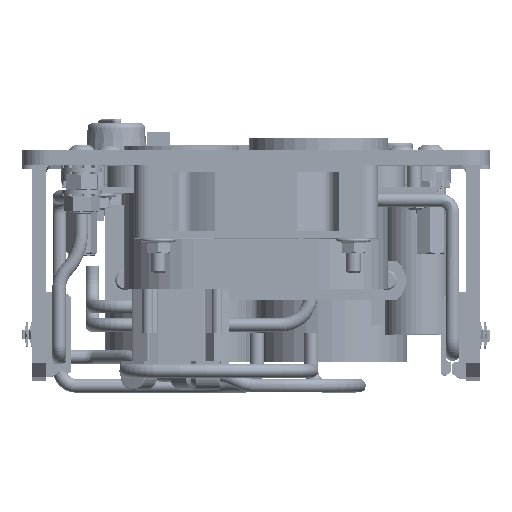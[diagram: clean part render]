
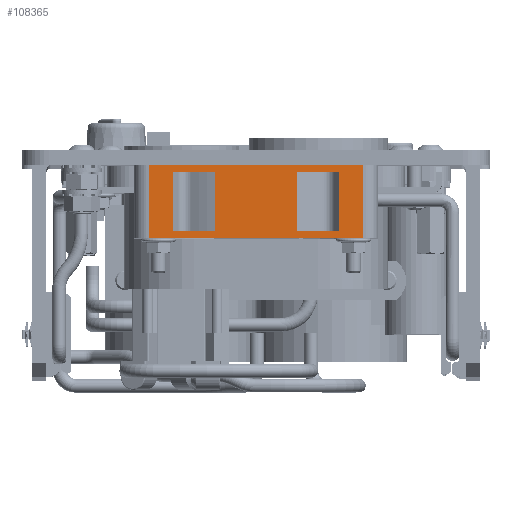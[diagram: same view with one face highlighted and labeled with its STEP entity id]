
A CAD part, top view. The second image highlights one B-rep face of the part: STEP entity #108365.
In plain terms, the highlighted planar face has unit normal (0, 0, 1) as drawn and (-1, 0, 0) by its records, which use the part's own axes.
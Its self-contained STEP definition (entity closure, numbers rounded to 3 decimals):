
#9862=LINE('',#184942,#15869);
#9863=LINE('',#184945,#15870);
#9864=LINE('',#184947,#15871);
#9865=LINE('',#184949,#15872);
#9866=LINE('',#184950,#15873);
#9867=LINE('',#184953,#15874);
#9868=LINE('',#184955,#15875);
#9869=LINE('',#184957,#15876);
#9870=LINE('',#184958,#15877);
#9871=LINE('',#184961,#15878);
#9872=LINE('',#184963,#15879);
#9873=LINE('',#184965,#15880);
#15869=VECTOR('',#136984,1000.);
#15870=VECTOR('',#136985,1000.);
#15871=VECTOR('',#136986,1000.);
#15872=VECTOR('',#136987,1000.);
#15873=VECTOR('',#136988,1000.);
#15874=VECTOR('',#136989,1000.);
#15875=VECTOR('',#136990,1000.);
#15876=VECTOR('',#136991,1000.);
#15877=VECTOR('',#136992,1000.);
#15878=VECTOR('',#136993,1000.);
#15879=VECTOR('',#136994,1000.);
#15880=VECTOR('',#136995,1000.);
#35551=ORIENTED_EDGE('',*,*,#51559,.F.);
#35552=ORIENTED_EDGE('',*,*,#51560,.T.);
#35553=ORIENTED_EDGE('',*,*,#51561,.T.);
#35554=ORIENTED_EDGE('',*,*,#51562,.T.);
#35555=ORIENTED_EDGE('',*,*,#51563,.F.);
#35556=ORIENTED_EDGE('',*,*,#51564,.T.);
#35557=ORIENTED_EDGE('',*,*,#51565,.T.);
#35558=ORIENTED_EDGE('',*,*,#51566,.T.);
#35559=ORIENTED_EDGE('',*,*,#51567,.F.);
#35560=ORIENTED_EDGE('',*,*,#51568,.T.);
#35561=ORIENTED_EDGE('',*,*,#51569,.T.);
#35562=ORIENTED_EDGE('',*,*,#51570,.T.);
#51559=EDGE_CURVE('',#60733,#60734,#9862,.T.);
#51560=EDGE_CURVE('',#60733,#60735,#9863,.T.);
#51561=EDGE_CURVE('',#60735,#60736,#9864,.T.);
#51562=EDGE_CURVE('',#60736,#60734,#9865,.T.);
#51563=EDGE_CURVE('',#60737,#60738,#9866,.T.);
#51564=EDGE_CURVE('',#60737,#60739,#9867,.T.);
#51565=EDGE_CURVE('',#60739,#60740,#9868,.T.);
#51566=EDGE_CURVE('',#60740,#60738,#9869,.F.);
#51567=EDGE_CURVE('',#60741,#60742,#9870,.T.);
#51568=EDGE_CURVE('',#60741,#60743,#9871,.T.);
#51569=EDGE_CURVE('',#60743,#60744,#9872,.T.);
#51570=EDGE_CURVE('',#60744,#60742,#9873,.F.);
#60733=VERTEX_POINT('',#184943);
#60734=VERTEX_POINT('',#184944);
#60735=VERTEX_POINT('',#184946);
#60736=VERTEX_POINT('',#184948);
#60737=VERTEX_POINT('',#184951);
#60738=VERTEX_POINT('',#184952);
#60739=VERTEX_POINT('',#184954);
#60740=VERTEX_POINT('',#184956);
#60741=VERTEX_POINT('',#184959);
#60742=VERTEX_POINT('',#184960);
#60743=VERTEX_POINT('',#184962);
#60744=VERTEX_POINT('',#184964);
#72228=EDGE_LOOP('',(#35551,#35552,#35553,#35554));
#72229=EDGE_LOOP('',(#35555,#35556,#35557,#35558));
#72230=EDGE_LOOP('',(#35559,#35560,#35561,#35562));
#78522=FACE_BOUND('',#72228,.T.);
#78523=FACE_BOUND('',#72229,.T.);
#78524=FACE_BOUND('',#72230,.T.);
#82221=PLANE('',#116752);
#108365=ADVANCED_FACE('',(#78522,#78523,#78524),#82221,.F.);
#116752=AXIS2_PLACEMENT_3D('',#184941,#136982,#136983);
#136982=DIRECTION('',(1.,0.,0.));
#136983=DIRECTION('',(0.,1.,0.));
#136984=DIRECTION('',(0.,1.,0.));
#136985=DIRECTION('',(0.,0.,-1.));
#136986=DIRECTION('',(0.,1.,0.));
#136987=DIRECTION('',(0.,0.,1.));
#136988=DIRECTION('',(0.,-1.,0.));
#136989=DIRECTION('',(0.,0.,-1.));
#136990=DIRECTION('',(0.,-1.,0.));
#136991=DIRECTION('',(0.,0.,-1.));
#136992=DIRECTION('',(0.,1.,0.));
#136993=DIRECTION('',(0.,0.,-1.));
#136994=DIRECTION('',(0.,1.,0.));
#136995=DIRECTION('',(0.,0.,-1.));
#184941=CARTESIAN_POINT('',(-25.,25.,7.5));
#184942=CARTESIAN_POINT('',(-25.,25.,6.));
#184943=CARTESIAN_POINT('',(-25.,8.425,6.));
#184944=CARTESIAN_POINT('',(-25.,17.097,6.));
#184945=CARTESIAN_POINT('',(-25.,8.425,6.));
#184946=CARTESIAN_POINT('',(-25.,8.425,-6.));
#184947=CARTESIAN_POINT('',(-25.,25.,-6.));
#184948=CARTESIAN_POINT('',(-25.,17.097,-6.));
#184949=CARTESIAN_POINT('',(-25.,17.097,7.5));
#184950=CARTESIAN_POINT('',(-25.,25.,7.5));
#184951=CARTESIAN_POINT('',(-25.,22.,7.5));
#184952=CARTESIAN_POINT('',(-25.,-22.,7.5));
#184953=CARTESIAN_POINT('',(-25.,22.,7.5));
#184954=CARTESIAN_POINT('',(-25.,22.,-7.5));
#184955=CARTESIAN_POINT('',(-25.,25.,-7.5));
#184956=CARTESIAN_POINT('',(-25.,-22.,-7.5));
#184957=CARTESIAN_POINT('',(-25.,-22.,7.5));
#184958=CARTESIAN_POINT('',(-25.,25.,6.));
#184959=CARTESIAN_POINT('',(-25.,-17.097,6.));
#184960=CARTESIAN_POINT('',(-25.,-8.425,6.));
#184961=CARTESIAN_POINT('',(-25.,-17.097,7.5));
#184962=CARTESIAN_POINT('',(-25.,-17.097,-6.));
#184963=CARTESIAN_POINT('',(-25.,25.,-6.));
#184964=CARTESIAN_POINT('',(-25.,-8.425,-6.));
#184965=CARTESIAN_POINT('',(-25.,-8.425,6.));
